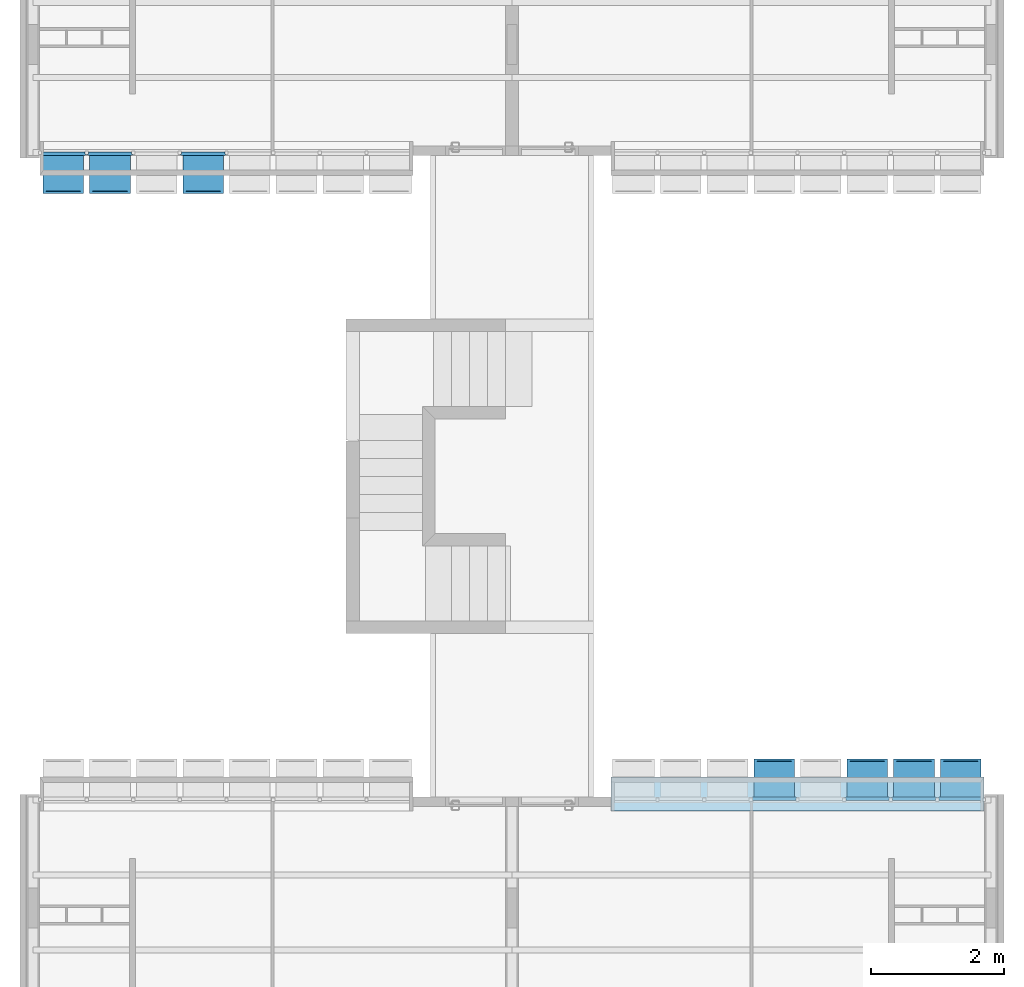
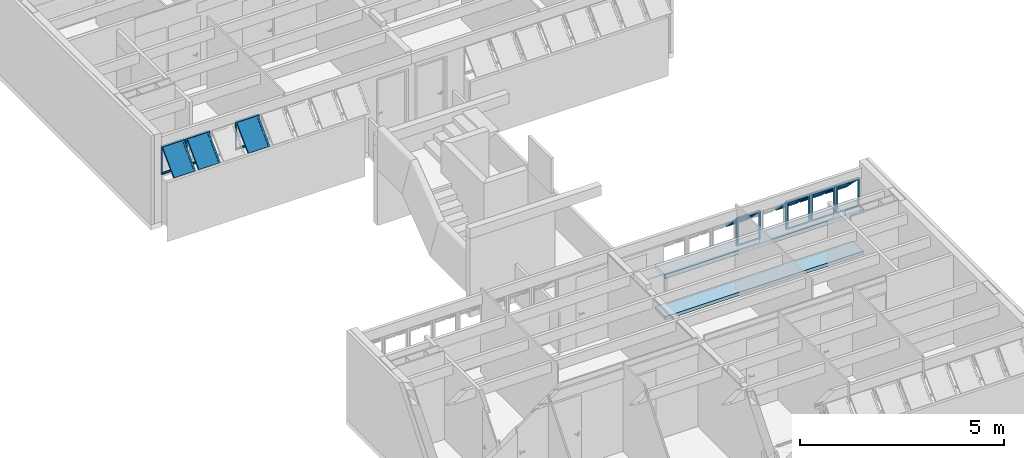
# One storey, part 10 of 41: 7 plates, 2 slabs, 2 elements without a shape of their own.
"""IFC4 building model written with IfcOpenShell, lengths in millimetres."""

from ifc_helpers import new_model, entity, si_unit, converted_unit, derived_unit, direction, frame, origin_with_axes, place, context, subcontext, project, spatial, line, indexed_curve, outline, extrude, polygons, source, transform, mapped, material, layer, layer_set, layer_usage, constituent, constituent_set, type_object, element, aggregate, save


model = new_model("IFC4")

# Units and contexts
model_context = context("Model", 3, precision=0.01, world=origin_with_axes(), true_north=direction((0.0, 1.0)))
body_context = subcontext(model_context, "Body", "Model", "MODEL_VIEW")
ifc_project = project(units=[si_unit("LENGTHUNIT", "METRE", prefix="MILLI"), si_unit("AREAUNIT", "SQUARE_METRE"), si_unit("VOLUMEUNIT", "CUBIC_METRE"), converted_unit("PLANEANGLEUNIT", "DEGREE", entity("IfcPlaneAngleMeasure", 0.0174532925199), si_unit("PLANEANGLEUNIT", "RADIAN"), dimensions=[0, 0, 0, 0, 0, 0, 0]), converted_unit("TIMEUNIT", "Year", entity("IfcTimeMeasure", 31556926.0), si_unit("TIMEUNIT", "SECOND"), dimensions=[0, 0, 1, 0, 0, 0, 0]), si_unit("MASSUNIT", "GRAM", prefix="KILO"), si_unit("THERMODYNAMICTEMPERATUREUNIT", "DEGREE_CELSIUS"), si_unit("LUMINOUSINTENSITYUNIT", "LUMEN"), si_unit("ENERGYUNIT", "JOULE", prefix="MEGA"), derived_unit("THERMALCONDUCTANCEUNIT", [(si_unit("POWERUNIT", "WATT"), 1), (si_unit("LENGTHUNIT", "METRE"), -1), (si_unit("THERMODYNAMICTEMPERATUREUNIT", "KELVIN"), -1)]), derived_unit("SPECIFICHEATCAPACITYUNIT", [(si_unit("ENERGYUNIT", "JOULE"), 1), (si_unit("MASSUNIT", "GRAM", prefix="KILO"), -1), (si_unit("THERMODYNAMICTEMPERATUREUNIT", "KELVIN"), -1)]), derived_unit("MASSDENSITYUNIT", [(si_unit("MASSUNIT", "GRAM", prefix="KILO"), 1), (si_unit("VOLUMEUNIT", "CUBIC_METRE"), -1)])], contexts=[model_context])

# Site, building, storey
site_placement = place(None, origin_with_axes())
site = spatial("IfcSite", under=ifc_project, at=site_placement, Name="Local", CompositionType="ELEMENT")
building_placement = place(site_placement, origin_with_axes())
building = spatial("IfcBuilding", under=site, at=building_placement, Name="Construção", CompositionType="ELEMENT")
storey_placement = place(building_placement, frame((0.0, 0.0, 2650.0), z_axis=(0.0, 0.0, 1.0), x_axis=(1.0, 0.0, 0.0)))
storey = spatial("IfcBuildingStorey", under=building, at=storey_placement, Name="Segundo Pavimento", CompositionType="ELEMENT", Elevation=2650.0)

# Slab
ifc_material_1 = material(Name="Concreto Armado Moldado in Loco - Estrutural")
ifc_layer_1 = layer(ifc_material_1, 120.0, ventilated="UNKNOWN", Name="Concreto Armado Moldado in Loco - Estrutural")
ifc_layer_set_1 = layer_set([ifc_layer_1], Name="Concreto Armado Moldado in Loco - Estrutural 120")
ifc_layer_usage_1 = layer_usage(ifc_layer_set_1, "AXIS3", "NEGATIVE", 120.0)
slab_type_1 = type_object("IfcSlabType", Name="Concreto Armado Moldado in Loco - Estrutural 120", PredefinedType="FLOOR")
slab_1_placement = place(storey_placement, frame((14470.0, 8564.99999866, 1355.0), z_axis=(0.0, 0.0, 1.0), x_axis=(1.0, 0.0, 0.0)))
element("IfcSlab", 1, at=slab_1_placement, inside=storey, type_object=slab_type_1, material=ifc_layer_usage_1, Name="APTO6-LAJE-003", PredefinedType="FLOOR", context=body_context, shape_type="SweptSolid", body=[
    extrude(outline(indexed_curve([(0.0, 0.0), (-5600.0, 0.0), (-5600.0, -510.0), (0.0, -510.0)], segments=[line(1, 2, 3, 4, 1)])), frame((0.0, 0.0, -120.0), z_axis=(0.0, 0.0, 1.0), x_axis=(1.0, 0.0, 0.0)), (0.0, 0.0, 1.0), 120.0),
])

# Window, plate
window_type = type_object("IfcWindowType", Name="Tipo de Parede Cortina", PartitioningType="NOTDEFINED", PredefinedType="NOTDEFINED")
window_1_placement = place(storey_placement, frame((2750.0, 17910.0, 1355.00007107), z_axis=(0.0, 0.0, 1.0), x_axis=(1.0, 0.0, 0.0)))
window_1 = element("IfcWindow", 2, at=window_1_placement, inside=storey, type_object=window_type, Name="APTO7-JANELA-000", PredefinedType="NOTDEFINED")
ifc_material_2 = material(Name="Alumínio")
ifc_constituent_1 = constituent(ifc_material_2, Name="Alumínio")
ifc_material_3 = material(Name="Vidro")
ifc_constituent_2 = constituent(ifc_material_3, Name="Vidro")
ifc_constituent_set_1 = constituent_set(constituents=[ifc_constituent_1, ifc_constituent_2])
plate_type = type_object("IfcPlateType", Name="Painel Principal 690 x 845 x 20", PredefinedType="CURTAIN_PANEL")
shared_shape_1 = source(origin_with_axes(), body_context, "Body", "Tessellation", [
    polygons([(25.0000036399, 0.0, -40.0), (674.999997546, 0.0, -40.0), (674.999997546, 0.0, -35.0), (25.0000036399, 0.0, -35.0), (70.0000036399, 45.0, -40.0), (629.999997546, 45.0, -40.0), (629.999997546, 45.0, -35.0), (70.0000036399, 45.0, -35.0)], [[[1, 2, 3, 4]], [[1, 5, 6, 2]], [[2, 6, 7, 3]], [[4, 3, 7, 8]], [[5, 1, 4, 8]], [[6, 5, 8, 7]]], closed=True),
    polygons([(674.999997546, 0.0, -40.0), (674.999997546, 844.999891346, -40.0), (674.999997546, 844.999891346, -35.0), (674.999997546, 0.0, -35.0), (629.999997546, 45.0, -40.0), (629.999997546, 799.999891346, -40.0), (629.999997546, 799.999891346, -35.0), (629.999997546, 45.0, -35.0)], [[[1, 2, 3, 4]], [[1, 5, 6, 2]], [[2, 6, 7, 3]], [[4, 3, 7, 8]], [[5, 1, 4, 8]], [[6, 5, 8, 7]]], closed=True),
    polygons([(25.0000036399, 844.999891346, -40.0), (70.0000036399, 799.999891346, -40.0), (70.0000036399, 799.999891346, -35.0), (25.0000036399, 844.999891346, -35.0), (674.999997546, 844.999891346, -40.0), (629.999997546, 799.999891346, -40.0), (629.999997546, 799.999891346, -35.0), (674.999997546, 844.999891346, -35.0)], [[[1, 2, 3, 4]], [[1, 5, 6, 2]], [[2, 6, 7, 3]], [[4, 3, 7, 8]], [[5, 1, 4, 8]], [[6, 5, 8, 7]]], closed=True),
    polygons([(25.0000036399, 0.0, -40.0), (70.0000036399, 45.0, -40.0), (70.0000036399, 45.0, -35.0), (25.0000036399, 0.0, -35.0), (25.0000036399, 844.999891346, -40.0), (70.0000036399, 799.999891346, -40.0), (70.0000036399, 799.999891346, -35.0), (25.0000036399, 844.999891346, -35.0)], [[[1, 2, 3, 4]], [[1, 5, 6, 2]], [[2, 6, 7, 3]], [[4, 3, 7, 8]], [[5, 1, 4, 8]], [[6, 5, 8, 7]]], closed=True),
    polygons([(25.0000036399, 0.0, -35.0), (674.999997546, 0.0, -35.0), (674.999997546, 0.0, 15.0), (25.0000036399, 0.0, 15.0), (45.0000036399, 20.0, -35.0), (654.999997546, 20.0, -35.0), (654.999997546, 20.0, 15.0), (45.0000036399, 20.0, 15.0)], [[[1, 2, 3, 4]], [[1, 5, 6, 2]], [[2, 6, 7, 3]], [[4, 3, 7, 8]], [[5, 1, 4, 8]], [[6, 5, 8, 7]]], closed=True),
    polygons([(674.999997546, 0.0, -35.0), (674.999997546, 844.999891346, -35.0), (674.999997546, 844.999891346, 15.0), (674.999997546, 0.0, 15.0), (654.999997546, 20.0, -35.0), (654.999997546, 824.999891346, -35.0), (654.999997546, 824.999891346, 15.0), (654.999997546, 20.0, 15.0)], [[[1, 2, 3, 4]], [[1, 5, 6, 2]], [[2, 6, 7, 3]], [[4, 3, 7, 8]], [[5, 1, 4, 8]], [[6, 5, 8, 7]]], closed=True),
    polygons([(25.0000036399, 844.999891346, -35.0), (45.0000036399, 824.999891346, -35.0), (45.0000036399, 824.999891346, 15.0), (25.0000036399, 844.999891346, 15.0), (674.999997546, 844.999891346, -35.0), (654.999997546, 824.999891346, -35.0), (654.999997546, 824.999891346, 15.0), (674.999997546, 844.999891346, 15.0)], [[[1, 2, 3, 4]], [[1, 5, 6, 2]], [[2, 6, 7, 3]], [[4, 3, 7, 8]], [[5, 1, 4, 8]], [[6, 5, 8, 7]]], closed=True),
    polygons([(25.0000036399, 0.0, -35.0), (45.0000036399, 20.0, -35.0), (45.0000036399, 20.0, 15.0), (25.0000036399, 0.0, 15.0), (25.0000036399, 844.999891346, -35.0), (45.0000036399, 824.999891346, -35.0), (45.0000036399, 824.999891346, 15.0), (25.0000036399, 844.999891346, 15.0)], [[[1, 2, 3, 4]], [[1, 5, 6, 2]], [[2, 6, 7, 3]], [[4, 3, 7, 8]], [[5, 1, 4, 8]], [[6, 5, 8, 7]]], closed=True),
    polygons([(694.999995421, 0.0, -10.0), (694.999995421, 844.999891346, -10.0), (694.999995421, 844.999891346, 10.0), (694.999995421, 0.0, 10.0), (674.999997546, 0.0, -10.0), (674.999997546, 844.999891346, -10.0), (674.999997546, 844.999891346, 10.0), (674.999997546, 0.0, 10.0)], [[[1, 2, 3, 4]], [[1, 5, 6, 2]], [[2, 6, 7, 3]], [[4, 3, 7, 8]], [[5, 1, 4, 8]], [[6, 5, 8, 7]]], closed=True),
    polygons([(5.00000576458, 844.999891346, -10.0), (5.00000576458, 0.0, -10.0), (5.00000576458, 0.0, 10.0), (5.00000576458, 844.999891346, 10.0), (25.0000036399, 844.999891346, -10.0), (25.0000036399, 0.0, -10.0), (25.0000036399, 0.0, 10.0), (25.0000036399, 844.999891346, 10.0)], [[[1, 2, 3, 4]], [[1, 5, 6, 2]], [[2, 6, 7, 3]], [[4, 3, 7, 8]], [[5, 1, 4, 8]], [[6, 5, 8, 7]]], closed=True),
    polygons([(90.0000036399, 252.243475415, 517.045737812), (90.0000036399, 757.824747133, 11.4644660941), (90.0000036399, 796.715620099, 50.3553390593), (90.0000036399, 291.13434838, 555.936610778), (45.0000036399, 220.423670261, 548.865542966), (45.0000036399, 789.644552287, -20.3553390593), (45.0000036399, 828.535425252, 18.5355339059), (45.0000036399, 259.314543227, 587.756415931)], [[[1, 2, 3, 4]], [[1, 5, 6, 2]], [[2, 6, 7, 3]], [[4, 3, 7, 8]], [[5, 1, 4, 8]], [[6, 5, 8, 7]]], closed=True),
    polygons([(654.999997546, 220.423670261, 548.865542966), (654.999997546, 789.644552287, -20.3553390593), (654.999997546, 828.535425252, 18.5355339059), (654.999997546, 259.314543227, 587.756415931), (609.999997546, 252.243475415, 517.045737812), (609.999997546, 757.824747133, 11.4644660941), (609.999997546, 796.715620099, 50.3553390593), (609.999997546, 291.13434838, 555.936610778)], [[[1, 2, 3, 4]], [[1, 5, 6, 2]], [[2, 6, 7, 3]], [[4, 3, 7, 8]], [[5, 1, 4, 8]], [[6, 5, 8, 7]]], closed=True),
    polygons([(654.999997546, 220.423670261, 548.865542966), (609.999997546, 252.243475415, 517.045737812), (609.999997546, 291.13434838, 555.936610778), (654.999997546, 259.314543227, 587.756415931), (45.0000036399, 220.423670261, 548.865542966), (90.0000036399, 252.243475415, 517.045737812), (90.0000036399, 291.13434838, 555.936610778), (45.0000036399, 259.314543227, 587.756415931)], [[[1, 2, 3, 4]], [[1, 5, 6, 2]], [[2, 6, 7, 3]], [[4, 3, 7, 8]], [[5, 1, 4, 8]], [[6, 5, 8, 7]]], closed=True),
    polygons([(45.0000036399, 789.644552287, -20.3553390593), (90.0000036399, 757.824747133, 11.4644660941), (90.0000036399, 796.715620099, 50.3553390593), (45.0000036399, 828.535425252, 18.5355339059), (654.999997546, 789.644552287, -20.3553390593), (609.999997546, 757.824747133, 11.4644660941), (609.999997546, 796.715620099, 50.3553390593), (654.999997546, 828.535425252, 18.5355339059)], [[[1, 2, 3, 4]], [[1, 5, 6, 2]], [[2, 6, 7, 3]], [[4, 3, 7, 8]], [[5, 1, 4, 8]], [[6, 5, 8, 7]]], closed=True),
    polygons([(90.0000036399, 272.749572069, 537.551834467), (609.999997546, 272.749572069, 537.551834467), (609.999997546, 284.063280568, 548.865542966), (90.0000036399, 284.063280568, 548.865542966), (90.0000036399, 778.330843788, 31.9705627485), (609.999997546, 778.330843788, 31.9705627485), (609.999997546, 789.644552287, 43.2842712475), (90.0000036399, 789.644552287, 43.2842712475)], [[[1, 2, 3, 4]], [[1, 5, 6, 2]], [[2, 6, 7, 3]], [[4, 3, 7, 8]], [[5, 1, 4, 8]], [[6, 5, 8, 7]]], closed=True),
])
plate_1_placement = place(window_1_placement, frame((0.0, 0.0, 422.499964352), z_axis=(0.0, 0.0, 1.0), x_axis=(-1.0, 0.0, 0.0)))
plate_1 = element("IfcPlate", 3, at=plate_1_placement, type_object=plate_type, material=ifc_constituent_set_1, Name="APTO7-Painel-Prin-013", PredefinedType="CURTAIN_PANEL", context=body_context, shape_type="MappedRepresentation", body=[
    mapped(shared_shape_1, transform((350.0, 0.0, -422.499964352), x_axis=(-1.0, 0.0, 0.0), y_axis=(0.0, 0.0, 1.0), z_axis=(0.0, 1.0, 0.0))),
])

# Window, plates
window_2_placement = place(storey_placement, frame((12020.0, 8250.0, 1355.00007107), z_axis=(0.0, 0.0, 1.0), x_axis=(1.0, 0.0, 0.0)))
window_2 = element("IfcWindow", 4, at=window_2_placement, inside=storey, type_object=window_type, Name="APTO6-JANELA-000", PredefinedType="NOTDEFINED")
ifc_constituent_3 = constituent(ifc_material_2, Name="Alumínio")
ifc_constituent_4 = constituent(ifc_material_3, Name="Vidro")
ifc_constituent_set_2 = constituent_set(constituents=[ifc_constituent_3, ifc_constituent_4])
shared_shape_2 = source(origin_with_axes(), body_context, "Body", "Tessellation", [
    polygons([(25.0000036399, 0.0, -40.0), (674.999997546, 0.0, -40.0), (674.999997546, 0.0, -35.0), (25.0000036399, 0.0, -35.0), (70.0000036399, 45.0, -40.0), (629.999997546, 45.0, -40.0), (629.999997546, 45.0, -35.0), (70.0000036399, 45.0, -35.0)], [[[1, 2, 3, 4]], [[1, 5, 6, 2]], [[2, 6, 7, 3]], [[4, 3, 7, 8]], [[5, 1, 4, 8]], [[6, 5, 8, 7]]], closed=True),
    polygons([(674.999997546, 0.0, -40.0), (674.999997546, 844.999891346, -40.0), (674.999997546, 844.999891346, -35.0), (674.999997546, 0.0, -35.0), (629.999997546, 45.0, -40.0), (629.999997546, 799.999891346, -40.0), (629.999997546, 799.999891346, -35.0), (629.999997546, 45.0, -35.0)], [[[1, 2, 3, 4]], [[1, 5, 6, 2]], [[2, 6, 7, 3]], [[4, 3, 7, 8]], [[5, 1, 4, 8]], [[6, 5, 8, 7]]], closed=True),
    polygons([(25.0000036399, 844.999891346, -40.0), (70.0000036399, 799.999891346, -40.0), (70.0000036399, 799.999891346, -35.0), (25.0000036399, 844.999891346, -35.0), (674.999997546, 844.999891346, -40.0), (629.999997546, 799.999891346, -40.0), (629.999997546, 799.999891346, -35.0), (674.999997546, 844.999891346, -35.0)], [[[1, 2, 3, 4]], [[1, 5, 6, 2]], [[2, 6, 7, 3]], [[4, 3, 7, 8]], [[5, 1, 4, 8]], [[6, 5, 8, 7]]], closed=True),
    polygons([(25.0000036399, 0.0, -40.0), (70.0000036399, 45.0, -40.0), (70.0000036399, 45.0, -35.0), (25.0000036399, 0.0, -35.0), (25.0000036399, 844.999891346, -40.0), (70.0000036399, 799.999891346, -40.0), (70.0000036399, 799.999891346, -35.0), (25.0000036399, 844.999891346, -35.0)], [[[1, 2, 3, 4]], [[1, 5, 6, 2]], [[2, 6, 7, 3]], [[4, 3, 7, 8]], [[5, 1, 4, 8]], [[6, 5, 8, 7]]], closed=True),
    polygons([(25.0000036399, 0.0, -35.0), (674.999997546, 0.0, -35.0), (674.999997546, 0.0, 15.0), (25.0000036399, 0.0, 15.0), (45.0000036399, 20.0, -35.0), (654.999997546, 20.0, -35.0), (654.999997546, 20.0, 15.0), (45.0000036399, 20.0, 15.0)], [[[1, 2, 3, 4]], [[1, 5, 6, 2]], [[2, 6, 7, 3]], [[4, 3, 7, 8]], [[5, 1, 4, 8]], [[6, 5, 8, 7]]], closed=True),
    polygons([(674.999997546, 0.0, -35.0), (674.999997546, 844.999891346, -35.0), (674.999997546, 844.999891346, 15.0), (674.999997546, 0.0, 15.0), (654.999997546, 20.0, -35.0), (654.999997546, 824.999891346, -35.0), (654.999997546, 824.999891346, 15.0), (654.999997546, 20.0, 15.0)], [[[1, 2, 3, 4]], [[1, 5, 6, 2]], [[2, 6, 7, 3]], [[4, 3, 7, 8]], [[5, 1, 4, 8]], [[6, 5, 8, 7]]], closed=True),
    polygons([(25.0000036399, 844.999891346, -35.0), (45.0000036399, 824.999891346, -35.0), (45.0000036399, 824.999891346, 15.0), (25.0000036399, 844.999891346, 15.0), (674.999997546, 844.999891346, -35.0), (654.999997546, 824.999891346, -35.0), (654.999997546, 824.999891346, 15.0), (674.999997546, 844.999891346, 15.0)], [[[1, 2, 3, 4]], [[1, 5, 6, 2]], [[2, 6, 7, 3]], [[4, 3, 7, 8]], [[5, 1, 4, 8]], [[6, 5, 8, 7]]], closed=True),
    polygons([(25.0000036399, 0.0, -35.0), (45.0000036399, 20.0, -35.0), (45.0000036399, 20.0, 15.0), (25.0000036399, 0.0, 15.0), (25.0000036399, 844.999891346, -35.0), (45.0000036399, 824.999891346, -35.0), (45.0000036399, 824.999891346, 15.0), (25.0000036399, 844.999891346, 15.0)], [[[1, 2, 3, 4]], [[1, 5, 6, 2]], [[2, 6, 7, 3]], [[4, 3, 7, 8]], [[5, 1, 4, 8]], [[6, 5, 8, 7]]], closed=True),
    polygons([(694.999995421, 0.0, -10.0), (694.999995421, 844.999891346, -10.0), (694.999995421, 844.999891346, 10.0), (694.999995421, 0.0, 10.0), (674.999997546, 0.0, -10.0), (674.999997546, 844.999891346, -10.0), (674.999997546, 844.999891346, 10.0), (674.999997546, 0.0, 10.0)], [[[1, 2, 3, 4]], [[1, 5, 6, 2]], [[2, 6, 7, 3]], [[4, 3, 7, 8]], [[5, 1, 4, 8]], [[6, 5, 8, 7]]], closed=True),
    polygons([(5.00000576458, 844.999891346, -10.0), (5.00000576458, 0.0, -10.0), (5.00000576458, 0.0, 10.0), (5.00000576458, 844.999891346, 10.0), (25.0000036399, 844.999891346, -10.0), (25.0000036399, 0.0, -10.0), (25.0000036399, 0.0, 10.0), (25.0000036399, 844.999891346, 10.0)], [[[1, 2, 3, 4]], [[1, 5, 6, 2]], [[2, 6, 7, 3]], [[4, 3, 7, 8]], [[5, 1, 4, 8]], [[6, 5, 8, 7]]], closed=True),
    polygons([(90.0000036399, 252.243475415, 517.045737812), (90.0000036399, 757.824747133, 11.4644660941), (90.0000036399, 796.715620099, 50.3553390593), (90.0000036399, 291.13434838, 555.936610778), (45.0000036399, 220.423670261, 548.865542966), (45.0000036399, 789.644552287, -20.3553390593), (45.0000036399, 828.535425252, 18.5355339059), (45.0000036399, 259.314543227, 587.756415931)], [[[1, 2, 3, 4]], [[1, 5, 6, 2]], [[2, 6, 7, 3]], [[4, 3, 7, 8]], [[5, 1, 4, 8]], [[6, 5, 8, 7]]], closed=True),
    polygons([(654.999997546, 220.423670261, 548.865542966), (654.999997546, 789.644552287, -20.3553390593), (654.999997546, 828.535425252, 18.5355339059), (654.999997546, 259.314543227, 587.756415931), (609.999997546, 252.243475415, 517.045737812), (609.999997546, 757.824747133, 11.4644660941), (609.999997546, 796.715620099, 50.3553390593), (609.999997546, 291.13434838, 555.936610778)], [[[1, 2, 3, 4]], [[1, 5, 6, 2]], [[2, 6, 7, 3]], [[4, 3, 7, 8]], [[5, 1, 4, 8]], [[6, 5, 8, 7]]], closed=True),
    polygons([(654.999997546, 220.423670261, 548.865542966), (609.999997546, 252.243475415, 517.045737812), (609.999997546, 291.13434838, 555.936610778), (654.999997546, 259.314543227, 587.756415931), (45.0000036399, 220.423670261, 548.865542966), (90.0000036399, 252.243475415, 517.045737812), (90.0000036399, 291.13434838, 555.936610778), (45.0000036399, 259.314543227, 587.756415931)], [[[1, 2, 3, 4]], [[1, 5, 6, 2]], [[2, 6, 7, 3]], [[4, 3, 7, 8]], [[5, 1, 4, 8]], [[6, 5, 8, 7]]], closed=True),
    polygons([(45.0000036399, 789.644552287, -20.3553390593), (90.0000036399, 757.824747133, 11.4644660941), (90.0000036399, 796.715620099, 50.3553390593), (45.0000036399, 828.535425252, 18.5355339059), (654.999997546, 789.644552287, -20.3553390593), (609.999997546, 757.824747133, 11.4644660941), (609.999997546, 796.715620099, 50.3553390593), (654.999997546, 828.535425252, 18.5355339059)], [[[1, 2, 3, 4]], [[1, 5, 6, 2]], [[2, 6, 7, 3]], [[4, 3, 7, 8]], [[5, 1, 4, 8]], [[6, 5, 8, 7]]], closed=True),
    polygons([(90.0000036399, 272.749572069, 537.551834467), (609.999997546, 272.749572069, 537.551834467), (609.999997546, 284.063280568, 548.865542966), (90.0000036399, 284.063280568, 548.865542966), (90.0000036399, 778.330843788, 31.9705627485), (609.999997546, 778.330843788, 31.9705627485), (609.999997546, 789.644552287, 43.2842712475), (90.0000036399, 789.644552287, 43.2842712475)], [[[1, 2, 3, 4]], [[1, 5, 6, 2]], [[2, 6, 7, 3]], [[4, 3, 7, 8]], [[5, 1, 4, 8]], [[6, 5, 8, 7]]], closed=True),
])
plate_2_placement = place(window_2_placement, frame((2100.0, 0.0, 422.499998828), z_axis=(0.0, 0.0, 1.0), x_axis=(1.0, 0.0, 0.0)))
plate_2 = element("IfcPlate", 5, at=plate_2_placement, type_object=plate_type, material=ifc_constituent_set_2, Name="APTO6-Painel-Prin-013", PredefinedType="CURTAIN_PANEL", context=body_context, shape_type="MappedRepresentation", body=[
    mapped(shared_shape_2, transform((350.0, 0.0, -422.499998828), x_axis=(-1.0, 0.0, 0.0), y_axis=(0.0, 0.0, 1.0), z_axis=(0.0, 1.0, 0.0))),
])
ifc_constituent_5 = constituent(ifc_material_2, Name="Alumínio")
ifc_constituent_6 = constituent(ifc_material_3, Name="Vidro")
ifc_constituent_set_3 = constituent_set(constituents=[ifc_constituent_5, ifc_constituent_6])
plate_3_placement = place(window_2_placement, frame((1400.0, 0.0, 422.499964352), z_axis=(0.0, 0.0, 1.0), x_axis=(1.0, 0.0, 0.0)))
plate_3 = element("IfcPlate", 6, at=plate_3_placement, type_object=plate_type, material=ifc_constituent_set_3, Name="APTO6-Painel-Prin-013", PredefinedType="CURTAIN_PANEL", context=body_context, shape_type="MappedRepresentation", body=[
    mapped(shared_shape_2, transform((350.0, 0.0, -422.499964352), x_axis=(-1.0, 0.0, 0.0), y_axis=(0.0, 0.0, 1.0), z_axis=(0.0, 1.0, 0.0))),
])

# Plate
ifc_constituent_7 = constituent(ifc_material_2, Name="Alumínio")
ifc_constituent_8 = constituent(ifc_material_3, Name="Vidro")
ifc_constituent_set_4 = constituent_set(constituents=[ifc_constituent_7, ifc_constituent_8])
plate_4_placement = place(window_1_placement, frame((-2100.0, 0.0, 422.499998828), z_axis=(0.0, 0.0, 1.0), x_axis=(-1.0, 0.0, 0.0)))
plate_4 = element("IfcPlate", 7, at=plate_4_placement, type_object=plate_type, material=ifc_constituent_set_4, Name="APTO7-Painel-Prin-013", PredefinedType="CURTAIN_PANEL", context=body_context, shape_type="MappedRepresentation", body=[
    mapped(shared_shape_2, transform((350.0, 0.0, -422.499998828), x_axis=(-1.0, 0.0, 0.0), y_axis=(0.0, 0.0, 1.0), z_axis=(0.0, 1.0, 0.0))),
])

ifc_constituent_9 = constituent(ifc_material_2, Name="Alumínio")
ifc_constituent_10 = constituent(ifc_material_3, Name="Vidro")
ifc_constituent_set_5 = constituent_set(constituents=[ifc_constituent_9, ifc_constituent_10])
plate_5_placement = place(window_1_placement, frame((-1400.0, 0.0, 422.499964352), z_axis=(0.0, 0.0, 1.0), x_axis=(-1.0, 0.0, 0.0)))
plate_5 = element("IfcPlate", 8, at=plate_5_placement, type_object=plate_type, material=ifc_constituent_set_5, Name="APTO7-Painel-Prin-013", PredefinedType="CURTAIN_PANEL", context=body_context, shape_type="MappedRepresentation", body=[
    mapped(shared_shape_2, transform((350.0, 0.0, -422.499964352), x_axis=(-1.0, 0.0, 0.0), y_axis=(0.0, 0.0, 1.0), z_axis=(0.0, 1.0, 0.0))),
])

aggregate(window_1, [plate_1, plate_4, plate_5])

ifc_constituent_11 = constituent(ifc_material_2, Name="Alumínio")
ifc_constituent_12 = constituent(ifc_material_3, Name="Vidro")
ifc_constituent_set_6 = constituent_set(constituents=[ifc_constituent_11, ifc_constituent_12])
shared_shape_3 = source(origin_with_axes(), body_context, "Body", "Tessellation", [
    polygons([(25.0000036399, 0.0, -40.0), (674.999997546, 0.0, -40.0), (674.999997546, 0.0, -35.0), (25.0000036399, 0.0, -35.0), (70.0000036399, 45.0, -40.0), (629.999997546, 45.0, -40.0), (629.999997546, 45.0, -35.0), (70.0000036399, 45.0, -35.0)], [[[1, 2, 3, 4]], [[1, 5, 6, 2]], [[2, 6, 7, 3]], [[4, 3, 7, 8]], [[5, 1, 4, 8]], [[6, 5, 8, 7]]], closed=True),
    polygons([(674.999997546, 0.0, -40.0), (674.999997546, 844.999891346, -40.0), (674.999997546, 844.999891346, -35.0), (674.999997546, 0.0, -35.0), (629.999997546, 45.0, -40.0), (629.999997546, 799.999891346, -40.0), (629.999997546, 799.999891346, -35.0), (629.999997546, 45.0, -35.0)], [[[1, 2, 3, 4]], [[1, 5, 6, 2]], [[2, 6, 7, 3]], [[4, 3, 7, 8]], [[5, 1, 4, 8]], [[6, 5, 8, 7]]], closed=True),
    polygons([(25.0000036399, 844.999891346, -40.0), (70.0000036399, 799.999891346, -40.0), (70.0000036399, 799.999891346, -35.0), (25.0000036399, 844.999891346, -35.0), (674.999997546, 844.999891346, -40.0), (629.999997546, 799.999891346, -40.0), (629.999997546, 799.999891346, -35.0), (674.999997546, 844.999891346, -35.0)], [[[1, 2, 3, 4]], [[1, 5, 6, 2]], [[2, 6, 7, 3]], [[4, 3, 7, 8]], [[5, 1, 4, 8]], [[6, 5, 8, 7]]], closed=True),
    polygons([(25.0000036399, 0.0, -40.0), (70.0000036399, 45.0, -40.0), (70.0000036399, 45.0, -35.0), (25.0000036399, 0.0, -35.0), (25.0000036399, 844.999891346, -40.0), (70.0000036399, 799.999891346, -40.0), (70.0000036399, 799.999891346, -35.0), (25.0000036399, 844.999891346, -35.0)], [[[1, 2, 3, 4]], [[1, 5, 6, 2]], [[2, 6, 7, 3]], [[4, 3, 7, 8]], [[5, 1, 4, 8]], [[6, 5, 8, 7]]], closed=True),
    polygons([(25.0000036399, 0.0, -35.0), (674.999997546, 0.0, -35.0), (674.999997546, 0.0, 15.0), (25.0000036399, 0.0, 15.0), (45.0000036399, 20.0, -35.0), (654.999997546, 20.0, -35.0), (654.999997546, 20.0, 15.0), (45.0000036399, 20.0, 15.0)], [[[1, 2, 3, 4]], [[1, 5, 6, 2]], [[2, 6, 7, 3]], [[4, 3, 7, 8]], [[5, 1, 4, 8]], [[6, 5, 8, 7]]], closed=True),
    polygons([(674.999997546, 0.0, -35.0), (674.999997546, 844.999891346, -35.0), (674.999997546, 844.999891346, 15.0), (674.999997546, 0.0, 15.0), (654.999997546, 20.0, -35.0), (654.999997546, 824.999891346, -35.0), (654.999997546, 824.999891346, 15.0), (654.999997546, 20.0, 15.0)], [[[1, 2, 3, 4]], [[1, 5, 6, 2]], [[2, 6, 7, 3]], [[4, 3, 7, 8]], [[5, 1, 4, 8]], [[6, 5, 8, 7]]], closed=True),
    polygons([(25.0000036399, 844.999891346, -35.0), (45.0000036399, 824.999891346, -35.0), (45.0000036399, 824.999891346, 15.0), (25.0000036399, 844.999891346, 15.0), (674.999997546, 844.999891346, -35.0), (654.999997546, 824.999891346, -35.0), (654.999997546, 824.999891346, 15.0), (674.999997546, 844.999891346, 15.0)], [[[1, 2, 3, 4]], [[1, 5, 6, 2]], [[2, 6, 7, 3]], [[4, 3, 7, 8]], [[5, 1, 4, 8]], [[6, 5, 8, 7]]], closed=True),
    polygons([(25.0000036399, 0.0, -35.0), (45.0000036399, 20.0, -35.0), (45.0000036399, 20.0, 15.0), (25.0000036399, 0.0, 15.0), (25.0000036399, 844.999891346, -35.0), (45.0000036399, 824.999891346, -35.0), (45.0000036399, 824.999891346, 15.0), (25.0000036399, 844.999891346, 15.0)], [[[1, 2, 3, 4]], [[1, 5, 6, 2]], [[2, 6, 7, 3]], [[4, 3, 7, 8]], [[5, 1, 4, 8]], [[6, 5, 8, 7]]], closed=True),
    polygons([(694.999995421, 0.0, -10.0), (694.999995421, 844.999891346, -10.0), (694.999995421, 844.999891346, 10.0), (694.999995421, 0.0, 10.0), (674.999997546, 0.0, -10.0), (674.999997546, 844.999891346, -10.0), (674.999997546, 844.999891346, 10.0), (674.999997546, 0.0, 10.0)], [[[1, 2, 3, 4]], [[1, 5, 6, 2]], [[2, 6, 7, 3]], [[4, 3, 7, 8]], [[5, 1, 4, 8]], [[6, 5, 8, 7]]], closed=True),
    polygons([(5.00000576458, 844.999891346, -10.0), (5.00000576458, 0.0, -10.0), (5.00000576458, 0.0, 10.0), (5.00000576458, 844.999891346, 10.0), (25.0000036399, 844.999891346, -10.0), (25.0000036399, 0.0, -10.0), (25.0000036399, 0.0, 10.0), (25.0000036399, 844.999891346, 10.0)], [[[1, 2, 3, 4]], [[1, 5, 6, 2]], [[2, 6, 7, 3]], [[4, 3, 7, 8]], [[5, 1, 4, 8]], [[6, 5, 8, 7]]], closed=True),
    polygons([(90.0000036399, 252.243475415, 517.045737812), (90.0000036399, 757.824747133, 11.4644660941), (90.0000036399, 796.715620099, 50.3553390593), (90.0000036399, 291.13434838, 555.936610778), (45.0000036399, 220.423670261, 548.865542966), (45.0000036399, 789.644552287, -20.3553390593), (45.0000036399, 828.535425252, 18.5355339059), (45.0000036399, 259.314543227, 587.756415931)], [[[1, 2, 3, 4]], [[1, 5, 6, 2]], [[2, 6, 7, 3]], [[4, 3, 7, 8]], [[5, 1, 4, 8]], [[6, 5, 8, 7]]], closed=True),
    polygons([(654.999997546, 220.423670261, 548.865542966), (654.999997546, 789.644552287, -20.3553390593), (654.999997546, 828.535425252, 18.5355339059), (654.999997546, 259.314543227, 587.756415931), (609.999997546, 252.243475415, 517.045737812), (609.999997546, 757.824747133, 11.4644660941), (609.999997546, 796.715620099, 50.3553390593), (609.999997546, 291.13434838, 555.936610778)], [[[1, 2, 3, 4]], [[1, 5, 6, 2]], [[2, 6, 7, 3]], [[4, 3, 7, 8]], [[5, 1, 4, 8]], [[6, 5, 8, 7]]], closed=True),
    polygons([(654.999997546, 220.423670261, 548.865542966), (609.999997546, 252.243475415, 517.045737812), (609.999997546, 291.13434838, 555.936610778), (654.999997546, 259.314543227, 587.756415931), (45.0000036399, 220.423670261, 548.865542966), (90.0000036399, 252.243475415, 517.045737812), (90.0000036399, 291.13434838, 555.936610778), (45.0000036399, 259.314543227, 587.756415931)], [[[1, 2, 3, 4]], [[1, 5, 6, 2]], [[2, 6, 7, 3]], [[4, 3, 7, 8]], [[5, 1, 4, 8]], [[6, 5, 8, 7]]], closed=True),
    polygons([(45.0000036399, 789.644552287, -20.3553390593), (90.0000036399, 757.824747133, 11.4644660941), (90.0000036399, 796.715620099, 50.3553390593), (45.0000036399, 828.535425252, 18.5355339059), (654.999997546, 789.644552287, -20.3553390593), (609.999997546, 757.824747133, 11.4644660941), (609.999997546, 796.715620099, 50.3553390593), (654.999997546, 828.535425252, 18.5355339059)], [[[1, 2, 3, 4]], [[1, 5, 6, 2]], [[2, 6, 7, 3]], [[4, 3, 7, 8]], [[5, 1, 4, 8]], [[6, 5, 8, 7]]], closed=True),
    polygons([(90.0000036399, 272.749572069, 537.551834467), (609.999997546, 272.749572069, 537.551834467), (609.999997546, 284.063280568, 548.865542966), (90.0000036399, 284.063280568, 548.865542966), (90.0000036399, 778.330843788, 31.9705627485), (609.999997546, 778.330843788, 31.9705627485), (609.999997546, 789.644552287, 43.2842712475), (90.0000036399, 789.644552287, 43.2842712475)], [[[1, 2, 3, 4]], [[1, 5, 6, 2]], [[2, 6, 7, 3]], [[4, 3, 7, 8]], [[5, 1, 4, 8]], [[6, 5, 8, 7]]], closed=True),
])
plate_6_placement = place(window_2_placement, frame((-700.0, 0.0, 422.499964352), z_axis=(0.0, 0.0, 1.0), x_axis=(1.0, 0.0, 0.0)))
plate_6 = element("IfcPlate", 9, at=plate_6_placement, type_object=plate_type, material=ifc_constituent_set_6, Name="APTO6-Painel-Prin-013", PredefinedType="CURTAIN_PANEL", context=body_context, shape_type="MappedRepresentation", body=[
    mapped(shared_shape_3, transform((350.0, 0.0, -422.499964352), x_axis=(-1.0, 0.0, 0.0), y_axis=(0.0, 0.0, 1.0), z_axis=(0.0, 1.0, 0.0))),
])

ifc_constituent_13 = constituent(ifc_material_2, Name="Alumínio")
ifc_constituent_14 = constituent(ifc_material_3, Name="Vidro")
ifc_constituent_set_7 = constituent_set(constituents=[ifc_constituent_13, ifc_constituent_14])
plate_7_placement = place(window_2_placement, frame((700.0, 0.0, 422.499964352), z_axis=(0.0, 0.0, 1.0), x_axis=(1.0, 0.0, 0.0)))
plate_7 = element("IfcPlate", 10, at=plate_7_placement, type_object=plate_type, material=ifc_constituent_set_7, Name="APTO6-Painel-Prin-013", PredefinedType="CURTAIN_PANEL", context=body_context, shape_type="MappedRepresentation", body=[
    mapped(shared_shape_3, transform((350.0, 0.0, -422.499964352), x_axis=(-1.0, 0.0, 0.0), y_axis=(0.0, 0.0, 1.0), z_axis=(0.0, 1.0, 0.0))),
])

aggregate(window_2, [plate_2, plate_3, plate_6, plate_7])

# Slab
ifc_layer_2 = layer(ifc_material_1, 100.0, ventilated="UNKNOWN", Name="Concreto Armado Moldado in Loco - Estrutural")
ifc_layer_set_2 = layer_set([ifc_layer_2], Name="Concreto Armado Moldado in Loco - Estrutural 100")
ifc_layer_usage_2 = layer_usage(ifc_layer_set_2, "AXIS3", "NEGATIVE", 100.0)
slab_type_2 = type_object("IfcSlabType", Name="Concreto Armado Moldado in Loco - Estrutural 100", PredefinedType="FLOOR")
slab_2_placement = place(storey_placement, frame((14470.0, 8564.99999866, 100.0), z_axis=(0.0, 0.0, 1.0), x_axis=(1.0, 0.0, 0.0)))
element("IfcSlab", 11, at=slab_2_placement, inside=storey, type_object=slab_type_2, material=ifc_layer_usage_2, Name="APTO6-LAJE-004", PredefinedType="FLOOR", context=body_context, shape_type="SweptSolid", body=[
    extrude(outline(indexed_curve([(0.0, 0.0), (-5600.0, 0.0), (-5600.0, -510.0), (0.0, -510.0)], segments=[line(1, 2, 3, 4, 1)])), frame((0.0, 0.0, -100.0), z_axis=(0.0, 0.0, 1.0), x_axis=(1.0, 0.0, 0.0)), (0.0, 0.0, 1.0), 100.0),
])

save(model, "model.ifc")
